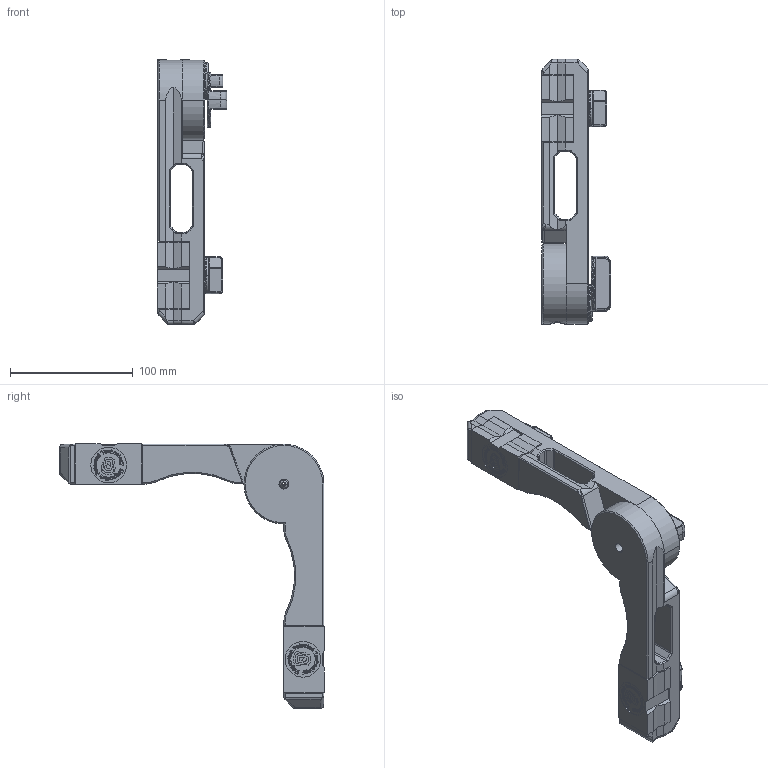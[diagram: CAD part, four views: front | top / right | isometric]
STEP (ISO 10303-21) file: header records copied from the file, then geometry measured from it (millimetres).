
FILE_DESCRIPTION (( 'STEP AP203' ), '1' );
FILE_NAME ('80001215_p.STEP', '2019-11-27T21:38:26', ( '' ), ( '' ), 'SwSTEP 2.0', 'SolidWorks 2018', '' );
FILE_SCHEMA (( 'CONFIG_CONTROL_DESIGN' ));
Products named in the file (1): 80001215_p
Bounding box: 56.5 x 215.5 x 215.5 mm (x, y, z)
Surface area: 78736.4 mm2 (no closed solid volume)
Topology: 0 solids, 72 shells, 1533 faces, 7921 edges, 6260 vertices
Faces by surface type: plane 867, bspline 444, cylinder 146, cone 45, torus 25, sphere 6
Entity records: 117504 total; most frequent: CARTESIAN_POINT 64138, ORIENTED_EDGE 10666, EDGE_CURVE 7917, DIRECTION 7570, VERTEX_POINT 6260, LINE 4608, VECTOR 4608, B_SPLINE_CURVE_WITH_KNOTS 2855
